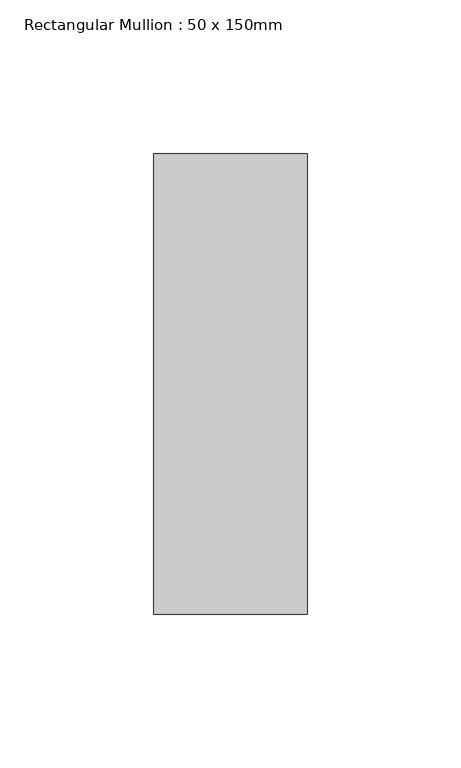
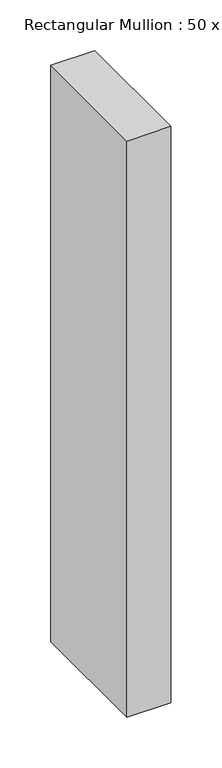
"""IFC4 building model written with IfcOpenShell, lengths in millimetres: member geometry, Rectangular Mullion : 50 x 150mm."""

from ifc_helpers import new_model, si_unit, frame, origin, place, context, project, spatial, polyline, outline, extrude, source, transform, mapped, element, save


def rectangular_mullion_50_x_150mm_06768e08(model_context):
    return source(origin(), model_context, "Body", "SweptSolid", [
        extrude(outline(polyline([(0.0, 75.0), (0.0, -75.0), (-50.0, -75.0), (-50.0, 75.0), (0.0, 75.0)])), frame((0.0, 0.0, -692.5961894), z_axis=(0.0, 0.0, 1.0), x_axis=(1.0, 0.0, 0.0)), (0.0, 0.0, 1.0), 692.5961894),
    ])


if __name__ == "__main__":
    model = new_model("IFC4")
    model_context = context("Model", 3, world=origin())
    ifc_project = project(units=[si_unit("LENGTHUNIT", "METRE", prefix="MILLI")], contexts=[model_context])
    site = spatial("IfcSite", under=ifc_project)
    building = spatial("IfcBuilding", under=site)
    placement = place(None, origin())
    rectangular_mullion_50_x_150mm_shape = rectangular_mullion_50_x_150mm_06768e08(model_context)
    element("IfcMember", 1, ObjectType="Rectangular Mullion : 50 x 150mm", at=placement, inside=building, context=model_context, shape_type="MappedRepresentation", body=[
        mapped(rectangular_mullion_50_x_150mm_shape, transform((0.0, 0.0, 0.0), x_axis=(1.0, 0.0, 0.0), y_axis=(0.0, 1.0, 0.0), z_axis=(0.0, 0.0, 1.0))),
    ])
    save(model, "model.ifc")
